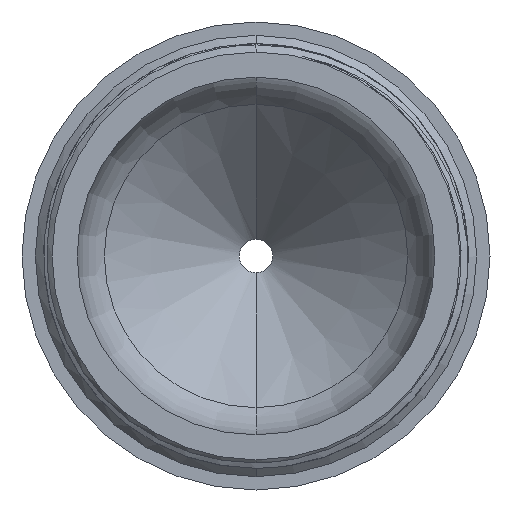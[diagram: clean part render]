
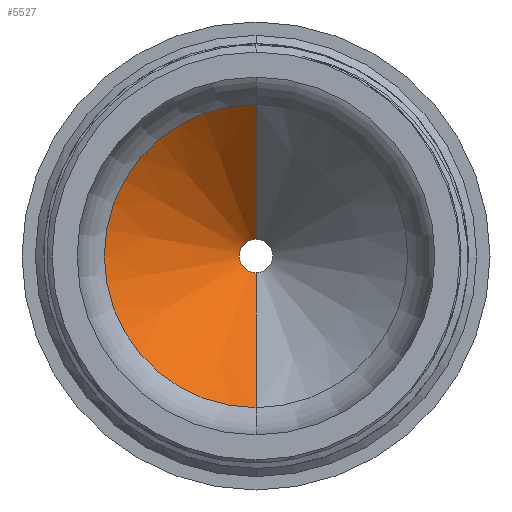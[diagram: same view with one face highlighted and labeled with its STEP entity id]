
A CAD part, front view. The second image highlights one B-rep face of the part: STEP entity #5527.
In plain terms, the highlighted conical face has half-angle 45 degrees and reference radius 1 mm.
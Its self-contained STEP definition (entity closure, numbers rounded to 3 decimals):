
#30 = CARTESIAN_POINT ( 'NONE',  ( 0., 3.926, 9.074 ) ) ;
#144 = ORIENTED_EDGE ( 'NONE', *, *, #1215, .T. ) ;
#224 = EDGE_CURVE ( 'NONE', #5351, #1801, #399, .T. ) ;
#399 = CIRCLE ( 'NONE', #4312, 1. ) ;
#457 = FACE_OUTER_BOUND ( 'NONE', #2279, .T. ) ;
#483 = CARTESIAN_POINT ( 'NONE',  ( 0., 12., -1. ) ) ;
#797 = DIRECTION ( 'NONE',  ( 0., -1., 0. ) ) ;
#855 = DIRECTION ( 'NONE',  ( 0., 0., -1. ) ) ;
#949 = CARTESIAN_POINT ( 'NONE',  ( 0., 12., 1. ) ) ;
#1215 = EDGE_CURVE ( 'NONE', #1882, #3288, #5438, .T. ) ;
#1801 = VERTEX_POINT ( 'NONE', #483 ) ;
#1803 = DIRECTION ( 'NONE',  ( 0., -0.707, 0.707 ) ) ;
#1882 = VERTEX_POINT ( 'NONE', #30 ) ;
#2076 = ORIENTED_EDGE ( 'NONE', *, *, #224, .F. ) ;
#2193 = EDGE_CURVE ( 'NONE', #1801, #3288, #2959, .T. ) ;
#2279 = EDGE_LOOP ( 'NONE', ( #2076, #5520, #144, #2561 ) ) ;
#2381 = AXIS2_PLACEMENT_3D ( 'NONE', #4788, #797, #855 ) ;
#2450 = VECTOR ( 'NONE', #1803, 1000. ) ;
#2561 = ORIENTED_EDGE ( 'NONE', *, *, #2193, .F. ) ;
#2572 = CONICAL_SURFACE ( 'NONE', #2381, 1., 0.785 ) ;
#2959 = LINE ( 'NONE', #4186, #2976 ) ;
#2976 = VECTOR ( 'NONE', #4639, 1000. ) ;
#3033 = DIRECTION ( 'NONE',  ( 0., -1., 0. ) ) ;
#3058 = CARTESIAN_POINT ( 'NONE',  ( 0., 3.926, 0. ) ) ;
#3288 = VERTEX_POINT ( 'NONE', #5090 ) ;
#3447 = AXIS2_PLACEMENT_3D ( 'NONE', #3058, #3033, #3882 ) ;
#3882 = DIRECTION ( 'NONE',  ( 0., 0., -1. ) ) ;
#4117 = LINE ( 'NONE', #4430, #2450 ) ;
#4186 = CARTESIAN_POINT ( 'NONE',  ( 0., 12., -1. ) ) ;
#4312 = AXIS2_PLACEMENT_3D ( 'NONE', #4641, #5122, #4731 ) ;
#4430 = CARTESIAN_POINT ( 'NONE',  ( 0., 12., 1. ) ) ;
#4639 = DIRECTION ( 'NONE',  ( 0., -0.707, -0.707 ) ) ;
#4641 = CARTESIAN_POINT ( 'NONE',  ( 0., 12., 0. ) ) ;
#4731 = DIRECTION ( 'NONE',  ( 0., 0., -1. ) ) ;
#4788 = CARTESIAN_POINT ( 'NONE',  ( 0., 12., 0. ) ) ;
#5090 = CARTESIAN_POINT ( 'NONE',  ( 0., 3.926, -9.074 ) ) ;
#5122 = DIRECTION ( 'NONE',  ( 0., -1., 0. ) ) ;
#5321 = EDGE_CURVE ( 'NONE', #5351, #1882, #4117, .T. ) ;
#5351 = VERTEX_POINT ( 'NONE', #949 ) ;
#5438 = CIRCLE ( 'NONE', #3447, 9.074 ) ;
#5520 = ORIENTED_EDGE ( 'NONE', *, *, #5321, .T. ) ;
#5527 = ADVANCED_FACE ( 'NONE', ( #457 ), #2572, .F. ) ;
